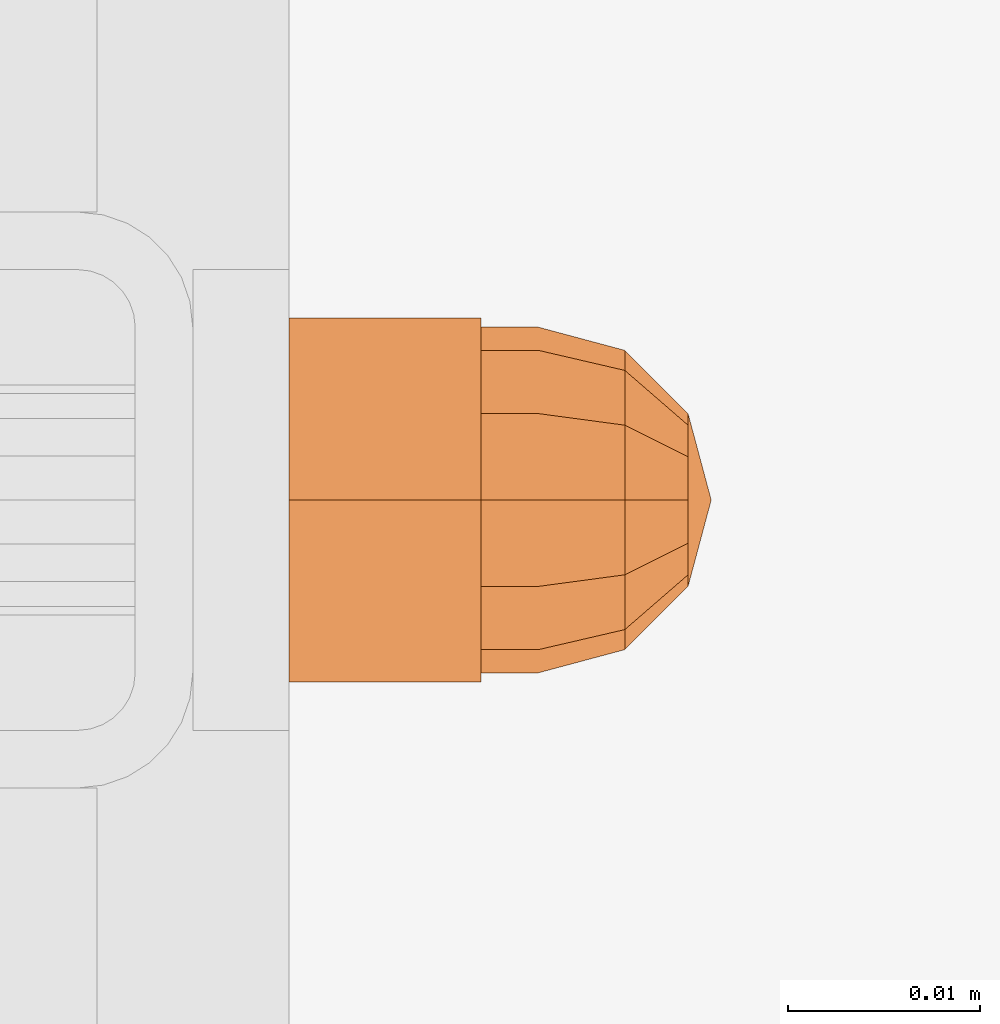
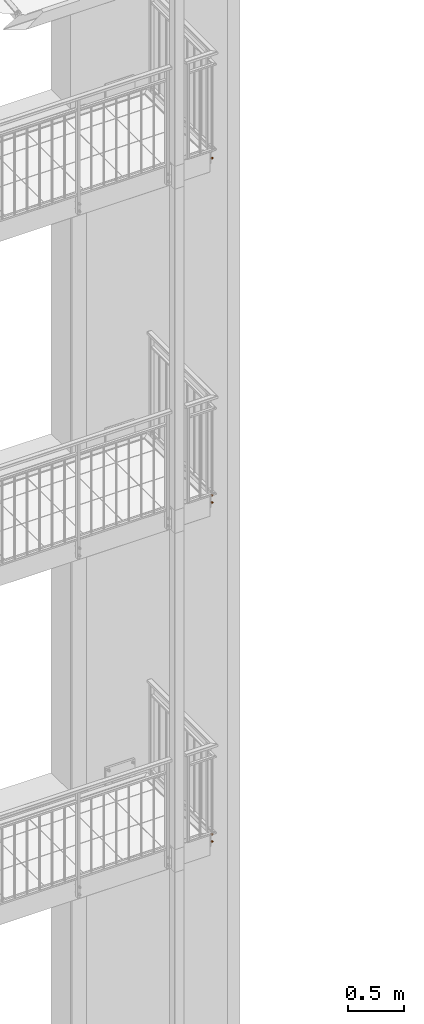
# One storey, part 159 of 162: 5 proxies.
"""IFC2X3 building model written with IfcOpenShell, lengths in millimetres."""

import ifcopenshell
import ifcopenshell.guid

model = None  # the IFC model being written
_history = None  # IfcOwnerHistory: only IFC2X3 demands one
_inside = {}  # id of a spatial element -> (the spatial element, [elements in it])
_under = {}  # id of a project, library or spatial element -> (it, [spatial elements below it])
_declared = {}  # id of a project -> (the project, [libraries it declares])
_typed = {}  # id of a type object -> (the type object, [elements of that type])
_made_of = {}  # id of a material, layer set ... -> (it, [elements and type objects made of it])


def new_model(schema):
    """Start an empty IFC model of exactly this schema.

    Asked for "IFC4X3", IfcOpenShell would pick the latest addendum, in which some entities
    have other attributes; the version numbers below select the first issue.
    IFC2X3 requires an IfcOwnerHistory on every rooted entity: one is made here for all.
    """
    global model, _history
    if schema == "IFC4X3":
        model = ifcopenshell.file(schema_version=(4, 3, 0, 0))
    else:
        model = ifcopenshell.file(schema=schema)
    _inside.clear()
    _under.clear()
    _declared.clear()
    _typed.clear()
    _made_of.clear()
    _history = None
    if model.schema == "IFC2X3":
        org = make("IfcOrganization", Name="unknown")
        user = make(
            "IfcPersonAndOrganization",
            ThePerson=make("IfcPerson", FamilyName="unknown"),
            TheOrganization=org,
        )
        app = make(
            "IfcApplication",
            ApplicationDeveloper=org,
            Version="unknown",
            ApplicationFullName="unknown",
            ApplicationIdentifier="unknown",
        )
        _history = make(
            "IfcOwnerHistory",
            OwningUser=user,
            OwningApplication=app,
            ChangeAction="ADDED",
            CreationDate=0,
        )
    return model


def make(cls, **values):
    """One entity of the class cls with the attributes given. An attribute that is None is left unset."""
    return model.create_entity(
        cls, **{name: value for name, value in values.items() if value is not None}
    )


def entity(cls, *values):
    """Any entity or typed value of the class cls, its attributes in the order of the schema. None: left unset."""
    e = model.create_entity(cls)
    for i, value in enumerate(values):
        if value is not None:
            e[i] = value
    return e


def rooted(cls, **values):
    """An entity with a GlobalId (a new one), such as an element, a storey or a relation."""
    return make(cls, GlobalId=ifcopenshell.guid.new(), OwnerHistory=_history, **values)


def si_unit(unit_type, name, prefix=None):
    """IfcSIUnit, for example si_unit("LENGTHUNIT", "METRE", prefix="MILLI")."""
    return make("IfcSIUnit", UnitType=unit_type, Prefix=prefix, Name=name)


def converted_unit(unit_type, name, factor, base, dimensions=None, offset=None):
    """IfcConversionBasedUnit, such as the inch: factor (a typed value) times the base unit."""
    return make(
        "IfcConversionBasedUnit"
        if offset is None
        else "IfcConversionBasedUnitWithOffset",
        ConversionOffset=offset,
        Dimensions=None
        if dimensions is None
        else entity("IfcDimensionalExponents", *dimensions),
        UnitType=unit_type,
        Name=name,
        ConversionFactor=make(
            "IfcMeasureWithUnit", ValueComponent=factor, UnitComponent=base
        ),
    )


def assignment(units):
    """IfcUnitAssignment: the units of a project."""
    return None if units is None else make("IfcUnitAssignment", Units=units)


def point(xyz):
    """IfcCartesianPoint."""
    return None if xyz is None else make("IfcCartesianPoint", Coordinates=xyz)


def direction(xyz):
    """IfcDirection."""
    return None if xyz is None else make("IfcDirection", DirectionRatios=xyz)


def frame(location, z_axis=None, x_axis=None):
    """IfcAxis2Placement3D, a coordinate frame: its origin and axes. An axis left out is left unset."""
    return make(
        "IfcAxis2Placement3D",
        Location=point(location),
        Axis=direction(z_axis),
        RefDirection=direction(x_axis),
    )


def origin_with_axes():
    """The frame at (0, 0, 0) with the z axis (0, 0, 1) and the x axis (1, 0, 0) written out."""
    return frame((0.0, 0.0, 0.0), z_axis=(0.0, 0.0, 1.0), x_axis=(1.0, 0.0, 0.0))


def place(relative_to, where):
    """IfcLocalPlacement: puts the frame where relative to a parent placement (None: the world)."""
    return make(
        "IfcLocalPlacement", PlacementRelTo=relative_to, RelativePlacement=where
    )


def context(
    kind, dimensions, precision=None, world=None, true_north=None, identifier=None
):
    """IfcGeometricRepresentationContext, for example the 3D "Model" context."""
    return make(
        "IfcGeometricRepresentationContext",
        ContextIdentifier=identifier,
        ContextType=kind,
        CoordinateSpaceDimension=dimensions,
        Precision=precision,
        WorldCoordinateSystem=world,
        TrueNorth=true_north,
    )


def project(units=None, contexts=None):
    """IfcProject with its units and contexts."""
    return rooted(
        "IfcProject",
        Name="project",
        RepresentationContexts=contexts,
        UnitsInContext=assignment(units),
    )


def spatial(cls, under=None, at=None, **own):
    """A site, building, storey or space (cls), placed at a placement, below another one or the project."""
    s = rooted(cls, ObjectPlacement=at, **own)
    if under is not None:
        _under.setdefault(under.id(), (under, []))[1].append(s)
    return s


def faces_of(points, faces, orient=None, outer=None):
    """IfcFace entities. A face is a list of loops; a loop is a list of indices into points, from 0.

    orient and outer hold one flag for each loop. By default every Orientation is true, the
    first loop of a face is its IfcFaceOuterBound and the others are IfcFaceBound.
    """
    made = []
    for i, loops in enumerate(faces):
        bounds = []
        for j, loop in enumerate(loops):
            is_outer = j == 0 if outer is None else outer[i][j]
            bounds.append(
                make(
                    "IfcFaceOuterBound" if is_outer else "IfcFaceBound",
                    Bound=make("IfcPolyLoop", Polygon=[points[k] for k in loop]),
                    Orientation=True if orient is None else orient[i][j],
                )
            )
        made.append(make("IfcFace", Bounds=bounds))
    return made


def faceted_brep(points, faces, orient=None, outer=None, voids=None):
    """IfcFacetedBrep: a solid bounded by flat faces; with voids (closed shells), ...WithVoids."""
    shared = [point(p) for p in points]
    hull = make("IfcClosedShell", CfsFaces=faces_of(shared, faces, orient, outer))
    if voids is None:
        return make("IfcFacetedBrep", Outer=hull)
    return make(
        "IfcFacetedBrepWithVoids",
        Outer=hull,
        Voids=[
            make(cls, CfsFaces=faces_of(shared, fs, o, b)) for cls, fs, o, b in voids
        ],
    )


def shape(context_of_items, identifier, shape_type, items):
    """IfcShapeRepresentation: the items that make up one representation, for example the "Body"."""
    return make(
        "IfcShapeRepresentation",
        ContextOfItems=context_of_items,
        RepresentationIdentifier=identifier,
        RepresentationType=shape_type,
        Items=items,
    )


def material(Name=None, Category=None):
    """IfcMaterial."""
    return make("IfcMaterial", Name=Name, Category=Category)


def made_of(thing, what):
    """Note that an element or type object is made of a material, layer set ...; save() writes the relation."""
    if what is not None:
        _made_of.setdefault(what.id(), (what, []))[1].append(thing)
    return thing


def element(
    cls,
    number,
    at=None,
    inside=None,
    cuts=None,
    type_object=None,
    material=None,
    context=None,
    identifier="Body",
    shape_type=None,
    held_by="IfcProductDefinitionShape",
    body=None,
    shapes=None,
    **own,
):
    """One element of the class cls, such as IfcWall. Its Tag is "e" and its number.

    at: its placement. inside: the storey or other place that contains it. cuts: it is an
    opening in that element (IfcRelVoidsElement). A single representation is given by context,
    identifier, shape_type and body (its items); several are given by shapes. held_by: the class
    of the entity that holds the representations. save() writes the other relations.
    """
    e = rooted(cls, Tag="e%d" % number, ObjectPlacement=at, **own)
    if body is not None:
        shapes = [shape(context, identifier, shape_type, body)]
    if shapes is not None:
        e.Representation = make(held_by, Representations=shapes)
    if inside is not None:
        _inside.setdefault(inside.id(), (inside, []))[1].append(e)
    if cuts is not None:
        rooted(
            "IfcRelVoidsElement", RelatingBuildingElement=cuts, RelatedOpeningElement=e
        )
    if type_object is not None:
        _typed.setdefault(type_object.id(), (type_object, []))[1].append(e)
    return made_of(e, material)


def aggregate(whole, parts):
    """IfcRelAggregates: a whole, such as a stair, and the parts it consists of."""
    return rooted("IfcRelAggregates", RelatingObject=whole, RelatedObjects=parts)


def save(model, path):
    """Write the relations noted so far, then the file.

    IfcRelAggregates (storeys below a building ...), IfcRelContainedInSpatialStructure (elements
    in a storey), IfcRelDefinesByType, IfcRelAssociatesMaterial and IfcRelDeclares: one each for
    every whole, place, type object, material and project.
    """
    for whole, parts in _under.values():
        aggregate(whole, parts)
    for where, things in _inside.values():
        rooted(
            "IfcRelContainedInSpatialStructure",
            RelatedElements=things,
            RelatingStructure=where,
        )
    for kind, things in _typed.values():
        rooted("IfcRelDefinesByType", RelatedObjects=things, RelatingType=kind)
    for what, things in _made_of.values():
        rooted("IfcRelAssociatesMaterial", RelatedObjects=things, RelatingMaterial=what)
    for by, libraries in _declared.values():
        rooted("IfcRelDeclares", RelatingContext=by, RelatedDefinitions=libraries)
    model.write(path)


model = new_model("IFC2X3")

# Units and contexts
model_context = context("Model", 3, precision=1e-09, world=origin_with_axes())
ifc_project = project(units=[si_unit("LENGTHUNIT", "METRE", prefix="MILLI"), si_unit("AREAUNIT", "SQUARE_METRE"), si_unit("VOLUMEUNIT", "CUBIC_METRE"), converted_unit("PLANEANGLEUNIT", "DEGREE", entity("IfcPlaneAngleMeasure", 0.01745329), si_unit("PLANEANGLEUNIT", "RADIAN"), dimensions=[0, 0, 0, 0, 0, 0, 0])], contexts=[model_context])

# Site, building, storey
site_placement = place(None, origin_with_axes())
site = spatial("IfcSite", under=ifc_project, at=site_placement, Name="Hermannstra?e 1a, 60318 Frankfurt", CompositionType="ELEMENT")
building_placement = place(site_placement, origin_with_axes())
building = spatial("IfcBuilding", under=site, at=building_placement, Name="Struktur 1", CompositionType="ELEMENT")
storey_placement = place(building_placement, origin_with_axes())
storey = spatial("IfcBuildingStorey", under=building, at=storey_placement, Name="Default Storey", CompositionType="ELEMENT", Elevation=0.0)

# Proxies
ifc_material = material(Name="Kein")
proxy_1_placement = place(None, origin_with_axes())
element("IfcBuildingElementProxy", 1, at=proxy_1_placement, inside=storey, material=ifc_material, ObjectType="-", context=model_context, shape_type="Brep", body=[
    faceted_brep([(5873.30936482, 1604.609373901, 7640.0), (5883.30936482, 1604.609373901, 7640.0), (5883.30936482, 1605.413221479, 7637.0), (5873.30936482, 1605.413221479, 7637.0), (5883.30936482, 1607.609373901, 7634.803847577), (5873.30936482, 1607.609373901, 7634.803847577), (5873.30936482, 1605.413221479, 7643.0), (5883.30936482, 1605.413221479, 7643.0), (5873.30936482, 1601.129504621, 7645.473205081), (5873.30936482, 1610.609373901, 7650.946410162), (5873.30936482, 1620.089243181, 7645.473205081), (5873.30936482, 1620.089243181, 7634.526794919), (5873.30936482, 1610.609373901, 7629.053589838), (5873.30936482, 1601.129504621, 7634.526794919), (5873.30936482, 1607.609373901, 7645.196152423), (5873.30936482, 1610.609373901, 7634.0), (5873.30936482, 1613.609373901, 7634.803847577), (5873.30936482, 1615.805526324, 7637.0), (5873.30936482, 1616.609373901, 7640.0), (5873.30936482, 1615.805526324, 7643.0), (5873.30936482, 1613.609373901, 7645.196152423), (5873.30936482, 1610.609373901, 7646.0), (5883.30936482, 1610.609373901, 7650.946410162), (5883.30936482, 1601.129504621, 7645.473205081), (5883.30936482, 1601.129504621, 7634.526794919), (5883.30936482, 1610.609373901, 7629.053589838), (5883.30936482, 1620.089243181, 7634.526794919), (5883.30936482, 1620.089243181, 7645.473205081), (5883.30936482, 1607.609373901, 7645.196152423), (5883.30936482, 1610.609373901, 7646.0), (5883.30936482, 1613.609373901, 7645.196152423), (5883.30936482, 1615.805526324, 7643.0), (5883.30936482, 1616.609373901, 7640.0), (5883.30936482, 1615.805526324, 7637.0), (5883.30936482, 1613.609373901, 7634.803847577), (5883.30936482, 1610.609373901, 7634.0)], [[[0, 1, 2, 3]], [[3, 2, 4, 5]], [[1, 0, 6, 7]], [[8, 9, 10, 11, 12, 13], [14, 6, 0, 3, 5, 15, 16, 17, 18, 19, 20, 21]], [[22, 23, 24, 25, 26, 27], [1, 7, 28, 29, 30, 31, 32, 33, 34, 35, 4, 2]], [[7, 6, 14, 28]], [[24, 23, 8, 13]], [[5, 4, 35, 15]], [[13, 12, 25, 24]], [[28, 14, 21, 29]], [[23, 22, 9, 8]], [[15, 35, 34, 16]], [[12, 11, 26, 25]], [[29, 21, 20, 30]], [[22, 27, 10, 9]], [[16, 34, 33, 17]], [[27, 26, 11, 10]], [[30, 20, 19, 31]], [[17, 33, 32, 18]], [[31, 19, 18, 32]]]),
    faceted_brep([(5883.30936482, 1610.609373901, 7649.0), (5886.30936482, 1610.609373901, 7649.0), (5886.30936482, 1615.109373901, 7647.794228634), (5883.30936482, 1615.109373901, 7647.794228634), (5883.30936482, 1606.109373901, 7647.794228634), (5886.30936482, 1606.109373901, 7647.794228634), (5886.30936482, 1602.815145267, 7635.5), (5886.30936482, 1606.109373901, 7632.205771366), (5886.30936482, 1610.609373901, 7631.0), (5886.30936482, 1615.109373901, 7632.205771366), (5886.30936482, 1618.403602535, 7635.5), (5886.30936482, 1619.609373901, 7640.0), (5886.30936482, 1618.403602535, 7644.5), (5886.30936482, 1602.815145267, 7644.5), (5886.30936482, 1601.609373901, 7640.0), (5883.30936482, 1618.403602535, 7635.5), (5883.30936482, 1615.109373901, 7632.205771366), (5883.30936482, 1610.609373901, 7631.0), (5883.30936482, 1606.109373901, 7632.205771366), (5883.30936482, 1602.815145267, 7635.5), (5883.30936482, 1601.609373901, 7640.0), (5883.30936482, 1602.815145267, 7644.5), (5883.30936482, 1618.403602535, 7644.5), (5883.30936482, 1619.609373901, 7640.0)], [[[0, 1, 2, 3]], [[1, 0, 4, 5]], [[6, 7, 8, 9, 10, 11, 12, 2, 1, 5, 13, 14]], [[15, 16, 17, 18, 19, 20, 21, 4, 0, 3, 22, 23]], [[3, 2, 12, 22]], [[5, 4, 21, 13]], [[22, 12, 11, 23]], [[13, 21, 20, 14]], [[7, 18, 17, 8]], [[19, 6, 14, 20]], [[18, 7, 6, 19]], [[23, 11, 10, 15]], [[8, 17, 16, 9]], [[15, 10, 9, 16]]]),
    faceted_brep([(5886.30936482, 1602.815145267, 7644.5), (5890.80936482, 1603.859373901, 7643.897114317), (5890.80936482, 1606.712259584, 7646.75), (5886.30936482, 1606.109373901, 7647.794228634), (5886.30936482, 1618.403602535, 7635.5), (5886.30936482, 1615.109373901, 7632.205771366), (5886.30936482, 1610.609373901, 7631.0), (5886.30936482, 1606.109373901, 7632.205771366), (5886.30936482, 1602.815145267, 7635.5), (5886.30936482, 1601.609373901, 7640.0), (5886.30936482, 1610.609373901, 7649.0), (5886.30936482, 1615.109373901, 7647.794228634), (5886.30936482, 1618.403602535, 7644.5), (5886.30936482, 1619.609373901, 7640.0), (5890.80936482, 1610.609373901, 7647.794228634), (5890.80936482, 1602.815145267, 7640.0), (5894.103593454, 1606.109373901, 7640.0), (5894.103593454, 1606.712259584, 7642.25), (5890.80936482, 1614.506488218, 7646.75), (5894.103593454, 1608.359373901, 7643.897114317), (5890.80936482, 1603.859373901, 7636.102885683), (5894.103593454, 1606.712259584, 7637.75), (5894.103593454, 1610.609373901, 7644.5), (5895.30936482, 1610.609373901, 7640.0), (5890.80936482, 1606.712259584, 7633.25), (5894.103593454, 1608.359373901, 7636.102885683), (5890.80936482, 1610.609373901, 7632.205771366), (5890.80936482, 1617.359373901, 7643.897114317), (5894.103593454, 1612.859373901, 7643.897114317), (5894.103593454, 1610.609373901, 7635.5), (5890.80936482, 1614.506488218, 7633.25), (5894.103593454, 1612.859373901, 7636.102885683), (5890.80936482, 1618.403602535, 7640.0), (5894.103593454, 1614.506488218, 7642.25), (5890.80936482, 1617.359373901, 7636.102885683), (5894.103593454, 1614.506488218, 7637.75), (5894.103593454, 1615.109373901, 7640.0)], [[[0, 1, 2, 3]], [[4, 5, 6, 7, 8, 9, 0, 3, 10, 11, 12, 13]], [[3, 2, 14, 10]], [[15, 16, 17, 1]], [[1, 0, 9, 15]], [[10, 14, 18, 11]], [[1, 17, 19, 2]], [[16, 15, 20, 21]], [[2, 19, 22, 14]], [[23, 17, 16]], [[24, 25, 21, 20]], [[23, 16, 21]], [[24, 7, 6, 26]], [[20, 8, 7, 24]], [[15, 9, 8, 20]], [[11, 18, 27, 12]], [[14, 22, 28, 18]], [[23, 19, 17]], [[26, 29, 25, 24]], [[23, 21, 25]], [[23, 22, 19]], [[26, 6, 5, 30]], [[29, 26, 30, 31]], [[23, 25, 29]], [[12, 27, 32, 13]], [[18, 28, 33, 27]], [[23, 28, 22]], [[23, 29, 31]], [[23, 33, 28]], [[30, 5, 4, 34]], [[31, 30, 34, 35]], [[23, 31, 35]], [[13, 32, 34, 4]], [[27, 33, 36, 32]], [[23, 36, 33]], [[23, 35, 36]], [[35, 34, 32, 36]]]),
])
proxy_2_placement = place(None, origin_with_axes())
element("IfcBuildingElementProxy", 2, at=proxy_2_placement, inside=storey, material=ifc_material, ObjectType="-", context=model_context, shape_type="Brep", body=[
    faceted_brep([(5873.30936482, 1604.609373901, 7720.0), (5883.30936482, 1604.609373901, 7720.0), (5883.30936482, 1605.413221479, 7717.0), (5873.30936482, 1605.413221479, 7717.0), (5883.30936482, 1607.609373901, 7714.803847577), (5873.30936482, 1607.609373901, 7714.803847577), (5873.30936482, 1605.413221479, 7723.0), (5883.30936482, 1605.413221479, 7723.0), (5873.30936482, 1601.129504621, 7725.473205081), (5873.30936482, 1610.609373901, 7730.946410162), (5873.30936482, 1620.089243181, 7725.473205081), (5873.30936482, 1620.089243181, 7714.526794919), (5873.30936482, 1610.609373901, 7709.053589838), (5873.30936482, 1601.129504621, 7714.526794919), (5873.30936482, 1607.609373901, 7725.196152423), (5873.30936482, 1610.609373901, 7714.0), (5873.30936482, 1613.609373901, 7714.803847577), (5873.30936482, 1615.805526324, 7717.0), (5873.30936482, 1616.609373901, 7720.0), (5873.30936482, 1615.805526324, 7723.0), (5873.30936482, 1613.609373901, 7725.196152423), (5873.30936482, 1610.609373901, 7726.0), (5883.30936482, 1610.609373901, 7730.946410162), (5883.30936482, 1601.129504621, 7725.473205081), (5883.30936482, 1601.129504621, 7714.526794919), (5883.30936482, 1610.609373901, 7709.053589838), (5883.30936482, 1620.089243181, 7714.526794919), (5883.30936482, 1620.089243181, 7725.473205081), (5883.30936482, 1607.609373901, 7725.196152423), (5883.30936482, 1610.609373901, 7726.0), (5883.30936482, 1613.609373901, 7725.196152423), (5883.30936482, 1615.805526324, 7723.0), (5883.30936482, 1616.609373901, 7720.0), (5883.30936482, 1615.805526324, 7717.0), (5883.30936482, 1613.609373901, 7714.803847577), (5883.30936482, 1610.609373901, 7714.0)], [[[0, 1, 2, 3]], [[3, 2, 4, 5]], [[1, 0, 6, 7]], [[8, 9, 10, 11, 12, 13], [14, 6, 0, 3, 5, 15, 16, 17, 18, 19, 20, 21]], [[22, 23, 24, 25, 26, 27], [1, 7, 28, 29, 30, 31, 32, 33, 34, 35, 4, 2]], [[7, 6, 14, 28]], [[24, 23, 8, 13]], [[5, 4, 35, 15]], [[13, 12, 25, 24]], [[28, 14, 21, 29]], [[23, 22, 9, 8]], [[15, 35, 34, 16]], [[12, 11, 26, 25]], [[29, 21, 20, 30]], [[22, 27, 10, 9]], [[16, 34, 33, 17]], [[27, 26, 11, 10]], [[30, 20, 19, 31]], [[17, 33, 32, 18]], [[31, 19, 18, 32]]]),
    faceted_brep([(5883.30936482, 1610.609373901, 7729.0), (5886.30936482, 1610.609373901, 7729.0), (5886.30936482, 1615.109373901, 7727.794228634), (5883.30936482, 1615.109373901, 7727.794228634), (5883.30936482, 1606.109373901, 7727.794228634), (5886.30936482, 1606.109373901, 7727.794228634), (5886.30936482, 1602.815145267, 7715.5), (5886.30936482, 1606.109373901, 7712.205771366), (5886.30936482, 1610.609373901, 7711.0), (5886.30936482, 1615.109373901, 7712.205771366), (5886.30936482, 1618.403602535, 7715.5), (5886.30936482, 1619.609373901, 7720.0), (5886.30936482, 1618.403602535, 7724.5), (5886.30936482, 1602.815145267, 7724.5), (5886.30936482, 1601.609373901, 7720.0), (5883.30936482, 1618.403602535, 7715.5), (5883.30936482, 1615.109373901, 7712.205771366), (5883.30936482, 1610.609373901, 7711.0), (5883.30936482, 1606.109373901, 7712.205771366), (5883.30936482, 1602.815145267, 7715.5), (5883.30936482, 1601.609373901, 7720.0), (5883.30936482, 1602.815145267, 7724.5), (5883.30936482, 1618.403602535, 7724.5), (5883.30936482, 1619.609373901, 7720.0)], [[[0, 1, 2, 3]], [[1, 0, 4, 5]], [[6, 7, 8, 9, 10, 11, 12, 2, 1, 5, 13, 14]], [[15, 16, 17, 18, 19, 20, 21, 4, 0, 3, 22, 23]], [[3, 2, 12, 22]], [[5, 4, 21, 13]], [[22, 12, 11, 23]], [[13, 21, 20, 14]], [[7, 18, 17, 8]], [[19, 6, 14, 20]], [[18, 7, 6, 19]], [[23, 11, 10, 15]], [[8, 17, 16, 9]], [[15, 10, 9, 16]]]),
    faceted_brep([(5886.30936482, 1602.815145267, 7724.5), (5890.80936482, 1603.859373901, 7723.897114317), (5890.80936482, 1606.712259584, 7726.75), (5886.30936482, 1606.109373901, 7727.794228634), (5886.30936482, 1618.403602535, 7715.5), (5886.30936482, 1615.109373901, 7712.205771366), (5886.30936482, 1610.609373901, 7711.0), (5886.30936482, 1606.109373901, 7712.205771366), (5886.30936482, 1602.815145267, 7715.5), (5886.30936482, 1601.609373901, 7720.0), (5886.30936482, 1610.609373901, 7729.0), (5886.30936482, 1615.109373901, 7727.794228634), (5886.30936482, 1618.403602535, 7724.5), (5886.30936482, 1619.609373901, 7720.0), (5890.80936482, 1610.609373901, 7727.794228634), (5890.80936482, 1602.815145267, 7720.0), (5894.103593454, 1606.109373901, 7720.0), (5894.103593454, 1606.712259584, 7722.25), (5890.80936482, 1614.506488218, 7726.75), (5894.103593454, 1608.359373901, 7723.897114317), (5890.80936482, 1603.859373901, 7716.102885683), (5894.103593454, 1606.712259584, 7717.75), (5894.103593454, 1610.609373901, 7724.5), (5895.30936482, 1610.609373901, 7720.0), (5890.80936482, 1606.712259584, 7713.25), (5894.103593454, 1608.359373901, 7716.102885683), (5890.80936482, 1610.609373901, 7712.205771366), (5890.80936482, 1617.359373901, 7723.897114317), (5894.103593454, 1612.859373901, 7723.897114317), (5894.103593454, 1610.609373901, 7715.5), (5890.80936482, 1614.506488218, 7713.25), (5894.103593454, 1612.859373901, 7716.102885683), (5890.80936482, 1618.403602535, 7720.0), (5894.103593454, 1614.506488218, 7722.25), (5890.80936482, 1617.359373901, 7716.102885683), (5894.103593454, 1614.506488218, 7717.75), (5894.103593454, 1615.109373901, 7720.0)], [[[0, 1, 2, 3]], [[4, 5, 6, 7, 8, 9, 0, 3, 10, 11, 12, 13]], [[3, 2, 14, 10]], [[15, 16, 17, 1]], [[1, 0, 9, 15]], [[10, 14, 18, 11]], [[1, 17, 19, 2]], [[16, 15, 20, 21]], [[2, 19, 22, 14]], [[23, 17, 16]], [[24, 25, 21, 20]], [[23, 16, 21]], [[24, 7, 6, 26]], [[20, 8, 7, 24]], [[15, 9, 8, 20]], [[11, 18, 27, 12]], [[14, 22, 28, 18]], [[23, 19, 17]], [[26, 29, 25, 24]], [[23, 21, 25]], [[23, 22, 19]], [[26, 6, 5, 30]], [[29, 26, 30, 31]], [[23, 25, 29]], [[12, 27, 32, 13]], [[18, 28, 33, 27]], [[23, 28, 22]], [[23, 29, 31]], [[23, 33, 28]], [[30, 5, 4, 34]], [[31, 30, 34, 35]], [[23, 31, 35]], [[13, 32, 34, 4]], [[27, 33, 36, 32]], [[23, 36, 33]], [[23, 35, 36]], [[35, 34, 32, 36]]]),
])
proxy_3_placement = place(None, origin_with_axes())
element("IfcBuildingElementProxy", 3, at=proxy_3_placement, inside=storey, material=ifc_material, ObjectType="-", context=model_context, shape_type="Brep", body=[
    faceted_brep([(5873.30936482, 1604.609373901, 11339.999), (5883.30936482, 1604.609373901, 11339.999), (5883.30936482, 1605.413221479, 11336.999), (5873.30936482, 1605.413221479, 11336.999), (5883.30936482, 1607.609373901, 11334.802847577), (5873.30936482, 1607.609373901, 11334.802847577), (5873.30936482, 1605.413221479, 11342.999), (5883.30936482, 1605.413221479, 11342.999), (5873.30936482, 1601.129504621, 11345.472205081), (5873.30936482, 1610.609373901, 11350.945410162), (5873.30936482, 1620.089243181, 11345.472205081), (5873.30936482, 1620.089243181, 11334.525794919), (5873.30936482, 1610.609373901, 11329.052589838), (5873.30936482, 1601.129504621, 11334.525794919), (5873.30936482, 1607.609373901, 11345.195152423), (5873.30936482, 1610.609373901, 11333.999), (5873.30936482, 1613.609373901, 11334.802847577), (5873.30936482, 1615.805526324, 11336.999), (5873.30936482, 1616.609373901, 11339.999), (5873.30936482, 1615.805526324, 11342.999), (5873.30936482, 1613.609373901, 11345.195152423), (5873.30936482, 1610.609373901, 11345.999), (5883.30936482, 1610.609373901, 11350.945410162), (5883.30936482, 1601.129504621, 11345.472205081), (5883.30936482, 1601.129504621, 11334.525794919), (5883.30936482, 1610.609373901, 11329.052589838), (5883.30936482, 1620.089243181, 11334.525794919), (5883.30936482, 1620.089243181, 11345.472205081), (5883.30936482, 1607.609373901, 11345.195152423), (5883.30936482, 1610.609373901, 11345.999), (5883.30936482, 1613.609373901, 11345.195152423), (5883.30936482, 1615.805526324, 11342.999), (5883.30936482, 1616.609373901, 11339.999), (5883.30936482, 1615.805526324, 11336.999), (5883.30936482, 1613.609373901, 11334.802847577), (5883.30936482, 1610.609373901, 11333.999)], [[[0, 1, 2, 3]], [[3, 2, 4, 5]], [[1, 0, 6, 7]], [[8, 9, 10, 11, 12, 13], [14, 6, 0, 3, 5, 15, 16, 17, 18, 19, 20, 21]], [[22, 23, 24, 25, 26, 27], [1, 7, 28, 29, 30, 31, 32, 33, 34, 35, 4, 2]], [[7, 6, 14, 28]], [[24, 23, 8, 13]], [[5, 4, 35, 15]], [[13, 12, 25, 24]], [[28, 14, 21, 29]], [[23, 22, 9, 8]], [[15, 35, 34, 16]], [[12, 11, 26, 25]], [[29, 21, 20, 30]], [[22, 27, 10, 9]], [[16, 34, 33, 17]], [[27, 26, 11, 10]], [[30, 20, 19, 31]], [[17, 33, 32, 18]], [[31, 19, 18, 32]]]),
    faceted_brep([(5883.30936482, 1610.609373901, 11348.999), (5886.30936482, 1610.609373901, 11348.999), (5886.30936482, 1615.109373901, 11347.793228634), (5883.30936482, 1615.109373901, 11347.793228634), (5883.30936482, 1606.109373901, 11347.793228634), (5886.30936482, 1606.109373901, 11347.793228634), (5886.30936482, 1602.815145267, 11335.499), (5886.30936482, 1606.109373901, 11332.204771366), (5886.30936482, 1610.609373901, 11330.999), (5886.30936482, 1615.109373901, 11332.204771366), (5886.30936482, 1618.403602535, 11335.499), (5886.30936482, 1619.609373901, 11339.999), (5886.30936482, 1618.403602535, 11344.499), (5886.30936482, 1602.815145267, 11344.499), (5886.30936482, 1601.609373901, 11339.999), (5883.30936482, 1618.403602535, 11335.499), (5883.30936482, 1615.109373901, 11332.204771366), (5883.30936482, 1610.609373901, 11330.999), (5883.30936482, 1606.109373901, 11332.204771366), (5883.30936482, 1602.815145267, 11335.499), (5883.30936482, 1601.609373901, 11339.999), (5883.30936482, 1602.815145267, 11344.499), (5883.30936482, 1618.403602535, 11344.499), (5883.30936482, 1619.609373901, 11339.999)], [[[0, 1, 2, 3]], [[1, 0, 4, 5]], [[6, 7, 8, 9, 10, 11, 12, 2, 1, 5, 13, 14]], [[15, 16, 17, 18, 19, 20, 21, 4, 0, 3, 22, 23]], [[3, 2, 12, 22]], [[5, 4, 21, 13]], [[22, 12, 11, 23]], [[13, 21, 20, 14]], [[7, 18, 17, 8]], [[19, 6, 14, 20]], [[18, 7, 6, 19]], [[23, 11, 10, 15]], [[8, 17, 16, 9]], [[15, 10, 9, 16]]]),
    faceted_brep([(5886.30936482, 1602.815145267, 11344.499), (5890.80936482, 1603.859373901, 11343.896114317), (5890.80936482, 1606.712259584, 11346.749), (5886.30936482, 1606.109373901, 11347.793228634), (5886.30936482, 1618.403602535, 11335.499), (5886.30936482, 1615.109373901, 11332.204771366), (5886.30936482, 1610.609373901, 11330.999), (5886.30936482, 1606.109373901, 11332.204771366), (5886.30936482, 1602.815145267, 11335.499), (5886.30936482, 1601.609373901, 11339.999), (5886.30936482, 1610.609373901, 11348.999), (5886.30936482, 1615.109373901, 11347.793228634), (5886.30936482, 1618.403602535, 11344.499), (5886.30936482, 1619.609373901, 11339.999), (5890.80936482, 1610.609373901, 11347.793228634), (5890.80936482, 1602.815145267, 11339.999), (5894.103593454, 1606.109373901, 11339.999), (5894.103593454, 1606.712259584, 11342.249), (5890.80936482, 1614.506488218, 11346.749), (5894.103593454, 1608.359373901, 11343.896114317), (5890.80936482, 1603.859373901, 11336.101885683), (5894.103593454, 1606.712259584, 11337.749), (5894.103593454, 1610.609373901, 11344.499), (5895.30936482, 1610.609373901, 11339.999), (5890.80936482, 1606.712259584, 11333.249), (5894.103593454, 1608.359373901, 11336.101885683), (5890.80936482, 1610.609373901, 11332.204771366), (5890.80936482, 1617.359373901, 11343.896114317), (5894.103593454, 1612.859373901, 11343.896114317), (5894.103593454, 1610.609373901, 11335.499), (5890.80936482, 1614.506488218, 11333.249), (5894.103593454, 1612.859373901, 11336.101885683), (5890.80936482, 1618.403602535, 11339.999), (5894.103593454, 1614.506488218, 11342.249), (5890.80936482, 1617.359373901, 11336.101885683), (5894.103593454, 1614.506488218, 11337.749), (5894.103593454, 1615.109373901, 11339.999)], [[[0, 1, 2, 3]], [[4, 5, 6, 7, 8, 9, 0, 3, 10, 11, 12, 13]], [[3, 2, 14, 10]], [[15, 16, 17, 1]], [[1, 0, 9, 15]], [[10, 14, 18, 11]], [[1, 17, 19, 2]], [[16, 15, 20, 21]], [[2, 19, 22, 14]], [[23, 17, 16]], [[24, 25, 21, 20]], [[23, 16, 21]], [[24, 7, 6, 26]], [[20, 8, 7, 24]], [[15, 9, 8, 20]], [[11, 18, 27, 12]], [[14, 22, 28, 18]], [[23, 19, 17]], [[26, 29, 25, 24]], [[23, 21, 25]], [[23, 22, 19]], [[26, 6, 5, 30]], [[29, 26, 30, 31]], [[23, 25, 29]], [[12, 27, 32, 13]], [[18, 28, 33, 27]], [[23, 28, 22]], [[23, 29, 31]], [[23, 33, 28]], [[30, 5, 4, 34]], [[31, 30, 34, 35]], [[23, 31, 35]], [[13, 32, 34, 4]], [[27, 33, 36, 32]], [[23, 36, 33]], [[23, 35, 36]], [[35, 34, 32, 36]]]),
])
proxy_4_placement = place(None, origin_with_axes())
element("IfcBuildingElementProxy", 4, at=proxy_4_placement, inside=storey, material=ifc_material, ObjectType="-", context=model_context, shape_type="Brep", body=[
    faceted_brep([(5873.30936482, 1604.609373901, 11419.999), (5883.30936482, 1604.609373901, 11419.999), (5883.30936482, 1605.413221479, 11416.999), (5873.30936482, 1605.413221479, 11416.999), (5883.30936482, 1607.609373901, 11414.802847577), (5873.30936482, 1607.609373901, 11414.802847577), (5873.30936482, 1605.413221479, 11422.999), (5883.30936482, 1605.413221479, 11422.999), (5873.30936482, 1601.129504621, 11425.472205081), (5873.30936482, 1610.609373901, 11430.945410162), (5873.30936482, 1620.089243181, 11425.472205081), (5873.30936482, 1620.089243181, 11414.525794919), (5873.30936482, 1610.609373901, 11409.052589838), (5873.30936482, 1601.129504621, 11414.525794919), (5873.30936482, 1607.609373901, 11425.195152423), (5873.30936482, 1610.609373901, 11413.999), (5873.30936482, 1613.609373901, 11414.802847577), (5873.30936482, 1615.805526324, 11416.999), (5873.30936482, 1616.609373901, 11419.999), (5873.30936482, 1615.805526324, 11422.999), (5873.30936482, 1613.609373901, 11425.195152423), (5873.30936482, 1610.609373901, 11425.999), (5883.30936482, 1610.609373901, 11430.945410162), (5883.30936482, 1601.129504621, 11425.472205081), (5883.30936482, 1601.129504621, 11414.525794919), (5883.30936482, 1610.609373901, 11409.052589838), (5883.30936482, 1620.089243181, 11414.525794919), (5883.30936482, 1620.089243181, 11425.472205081), (5883.30936482, 1607.609373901, 11425.195152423), (5883.30936482, 1610.609373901, 11425.999), (5883.30936482, 1613.609373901, 11425.195152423), (5883.30936482, 1615.805526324, 11422.999), (5883.30936482, 1616.609373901, 11419.999), (5883.30936482, 1615.805526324, 11416.999), (5883.30936482, 1613.609373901, 11414.802847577), (5883.30936482, 1610.609373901, 11413.999)], [[[0, 1, 2, 3]], [[3, 2, 4, 5]], [[1, 0, 6, 7]], [[8, 9, 10, 11, 12, 13], [14, 6, 0, 3, 5, 15, 16, 17, 18, 19, 20, 21]], [[22, 23, 24, 25, 26, 27], [1, 7, 28, 29, 30, 31, 32, 33, 34, 35, 4, 2]], [[7, 6, 14, 28]], [[24, 23, 8, 13]], [[5, 4, 35, 15]], [[13, 12, 25, 24]], [[28, 14, 21, 29]], [[23, 22, 9, 8]], [[15, 35, 34, 16]], [[12, 11, 26, 25]], [[29, 21, 20, 30]], [[22, 27, 10, 9]], [[16, 34, 33, 17]], [[27, 26, 11, 10]], [[30, 20, 19, 31]], [[17, 33, 32, 18]], [[31, 19, 18, 32]]]),
    faceted_brep([(5883.30936482, 1610.609373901, 11428.999), (5886.30936482, 1610.609373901, 11428.999), (5886.30936482, 1615.109373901, 11427.793228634), (5883.30936482, 1615.109373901, 11427.793228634), (5883.30936482, 1606.109373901, 11427.793228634), (5886.30936482, 1606.109373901, 11427.793228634), (5886.30936482, 1602.815145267, 11415.499), (5886.30936482, 1606.109373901, 11412.204771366), (5886.30936482, 1610.609373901, 11410.999), (5886.30936482, 1615.109373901, 11412.204771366), (5886.30936482, 1618.403602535, 11415.499), (5886.30936482, 1619.609373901, 11419.999), (5886.30936482, 1618.403602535, 11424.499), (5886.30936482, 1602.815145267, 11424.499), (5886.30936482, 1601.609373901, 11419.999), (5883.30936482, 1618.403602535, 11415.499), (5883.30936482, 1615.109373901, 11412.204771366), (5883.30936482, 1610.609373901, 11410.999), (5883.30936482, 1606.109373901, 11412.204771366), (5883.30936482, 1602.815145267, 11415.499), (5883.30936482, 1601.609373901, 11419.999), (5883.30936482, 1602.815145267, 11424.499), (5883.30936482, 1618.403602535, 11424.499), (5883.30936482, 1619.609373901, 11419.999)], [[[0, 1, 2, 3]], [[1, 0, 4, 5]], [[6, 7, 8, 9, 10, 11, 12, 2, 1, 5, 13, 14]], [[15, 16, 17, 18, 19, 20, 21, 4, 0, 3, 22, 23]], [[3, 2, 12, 22]], [[5, 4, 21, 13]], [[22, 12, 11, 23]], [[13, 21, 20, 14]], [[7, 18, 17, 8]], [[19, 6, 14, 20]], [[18, 7, 6, 19]], [[23, 11, 10, 15]], [[8, 17, 16, 9]], [[15, 10, 9, 16]]]),
    faceted_brep([(5886.30936482, 1602.815145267, 11424.499), (5890.80936482, 1603.859373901, 11423.896114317), (5890.80936482, 1606.712259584, 11426.749), (5886.30936482, 1606.109373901, 11427.793228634), (5886.30936482, 1618.403602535, 11415.499), (5886.30936482, 1615.109373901, 11412.204771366), (5886.30936482, 1610.609373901, 11410.999), (5886.30936482, 1606.109373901, 11412.204771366), (5886.30936482, 1602.815145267, 11415.499), (5886.30936482, 1601.609373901, 11419.999), (5886.30936482, 1610.609373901, 11428.999), (5886.30936482, 1615.109373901, 11427.793228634), (5886.30936482, 1618.403602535, 11424.499), (5886.30936482, 1619.609373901, 11419.999), (5890.80936482, 1610.609373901, 11427.793228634), (5890.80936482, 1602.815145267, 11419.999), (5894.103593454, 1606.109373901, 11419.999), (5894.103593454, 1606.712259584, 11422.249), (5890.80936482, 1614.506488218, 11426.749), (5894.103593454, 1608.359373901, 11423.896114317), (5890.80936482, 1603.859373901, 11416.101885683), (5894.103593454, 1606.712259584, 11417.749), (5894.103593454, 1610.609373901, 11424.499), (5895.30936482, 1610.609373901, 11419.999), (5890.80936482, 1606.712259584, 11413.249), (5894.103593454, 1608.359373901, 11416.101885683), (5890.80936482, 1610.609373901, 11412.204771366), (5890.80936482, 1617.359373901, 11423.896114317), (5894.103593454, 1612.859373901, 11423.896114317), (5894.103593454, 1610.609373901, 11415.499), (5890.80936482, 1614.506488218, 11413.249), (5894.103593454, 1612.859373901, 11416.101885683), (5890.80936482, 1618.403602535, 11419.999), (5894.103593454, 1614.506488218, 11422.249), (5890.80936482, 1617.359373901, 11416.101885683), (5894.103593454, 1614.506488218, 11417.749), (5894.103593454, 1615.109373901, 11419.999)], [[[0, 1, 2, 3]], [[4, 5, 6, 7, 8, 9, 0, 3, 10, 11, 12, 13]], [[3, 2, 14, 10]], [[15, 16, 17, 1]], [[1, 0, 9, 15]], [[10, 14, 18, 11]], [[1, 17, 19, 2]], [[16, 15, 20, 21]], [[2, 19, 22, 14]], [[23, 17, 16]], [[24, 25, 21, 20]], [[23, 16, 21]], [[24, 7, 6, 26]], [[20, 8, 7, 24]], [[15, 9, 8, 20]], [[11, 18, 27, 12]], [[14, 22, 28, 18]], [[23, 19, 17]], [[26, 29, 25, 24]], [[23, 21, 25]], [[23, 22, 19]], [[26, 6, 5, 30]], [[29, 26, 30, 31]], [[23, 25, 29]], [[12, 27, 32, 13]], [[18, 28, 33, 27]], [[23, 28, 22]], [[23, 29, 31]], [[23, 33, 28]], [[30, 5, 4, 34]], [[31, 30, 34, 35]], [[23, 31, 35]], [[13, 32, 34, 4]], [[27, 33, 36, 32]], [[23, 36, 33]], [[23, 35, 36]], [[35, 34, 32, 36]]]),
])
proxy_5_placement = place(None, origin_with_axes())
element("IfcBuildingElementProxy", 5, at=proxy_5_placement, inside=storey, material=ifc_material, ObjectType="-", context=model_context, shape_type="Brep", body=[
    faceted_brep([(5873.30936482, 1604.609373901, 15096.999), (5883.30936482, 1604.609373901, 15096.999), (5883.30936482, 1605.413221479, 15093.999), (5873.30936482, 1605.413221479, 15093.999), (5883.30936482, 1607.609373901, 15091.802847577), (5873.30936482, 1607.609373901, 15091.802847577), (5873.30936482, 1605.413221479, 15099.999), (5883.30936482, 1605.413221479, 15099.999), (5873.30936482, 1601.129504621, 15102.472205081), (5873.30936482, 1610.609373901, 15107.945410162), (5873.30936482, 1620.089243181, 15102.472205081), (5873.30936482, 1620.089243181, 15091.525794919), (5873.30936482, 1610.609373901, 15086.052589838), (5873.30936482, 1601.129504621, 15091.525794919), (5873.30936482, 1607.609373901, 15102.195152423), (5873.30936482, 1610.609373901, 15090.999), (5873.30936482, 1613.609373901, 15091.802847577), (5873.30936482, 1615.805526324, 15093.999), (5873.30936482, 1616.609373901, 15096.999), (5873.30936482, 1615.805526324, 15099.999), (5873.30936482, 1613.609373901, 15102.195152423), (5873.30936482, 1610.609373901, 15102.999), (5883.30936482, 1610.609373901, 15107.945410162), (5883.30936482, 1601.129504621, 15102.472205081), (5883.30936482, 1601.129504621, 15091.525794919), (5883.30936482, 1610.609373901, 15086.052589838), (5883.30936482, 1620.089243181, 15091.525794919), (5883.30936482, 1620.089243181, 15102.472205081), (5883.30936482, 1607.609373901, 15102.195152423), (5883.30936482, 1610.609373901, 15102.999), (5883.30936482, 1613.609373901, 15102.195152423), (5883.30936482, 1615.805526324, 15099.999), (5883.30936482, 1616.609373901, 15096.999), (5883.30936482, 1615.805526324, 15093.999), (5883.30936482, 1613.609373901, 15091.802847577), (5883.30936482, 1610.609373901, 15090.999)], [[[0, 1, 2, 3]], [[3, 2, 4, 5]], [[1, 0, 6, 7]], [[8, 9, 10, 11, 12, 13], [14, 6, 0, 3, 5, 15, 16, 17, 18, 19, 20, 21]], [[22, 23, 24, 25, 26, 27], [1, 7, 28, 29, 30, 31, 32, 33, 34, 35, 4, 2]], [[7, 6, 14, 28]], [[24, 23, 8, 13]], [[5, 4, 35, 15]], [[13, 12, 25, 24]], [[28, 14, 21, 29]], [[23, 22, 9, 8]], [[15, 35, 34, 16]], [[12, 11, 26, 25]], [[29, 21, 20, 30]], [[22, 27, 10, 9]], [[16, 34, 33, 17]], [[27, 26, 11, 10]], [[30, 20, 19, 31]], [[17, 33, 32, 18]], [[31, 19, 18, 32]]]),
    faceted_brep([(5883.30936482, 1610.609373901, 15105.999), (5886.30936482, 1610.609373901, 15105.999), (5886.30936482, 1615.109373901, 15104.793228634), (5883.30936482, 1615.109373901, 15104.793228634), (5883.30936482, 1606.109373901, 15104.793228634), (5886.30936482, 1606.109373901, 15104.793228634), (5886.30936482, 1602.815145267, 15092.499), (5886.30936482, 1606.109373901, 15089.204771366), (5886.30936482, 1610.609373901, 15087.999), (5886.30936482, 1615.109373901, 15089.204771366), (5886.30936482, 1618.403602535, 15092.499), (5886.30936482, 1619.609373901, 15096.999), (5886.30936482, 1618.403602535, 15101.499), (5886.30936482, 1602.815145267, 15101.499), (5886.30936482, 1601.609373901, 15096.999), (5883.30936482, 1618.403602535, 15092.499), (5883.30936482, 1615.109373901, 15089.204771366), (5883.30936482, 1610.609373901, 15087.999), (5883.30936482, 1606.109373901, 15089.204771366), (5883.30936482, 1602.815145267, 15092.499), (5883.30936482, 1601.609373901, 15096.999), (5883.30936482, 1602.815145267, 15101.499), (5883.30936482, 1618.403602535, 15101.499), (5883.30936482, 1619.609373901, 15096.999)], [[[0, 1, 2, 3]], [[1, 0, 4, 5]], [[6, 7, 8, 9, 10, 11, 12, 2, 1, 5, 13, 14]], [[15, 16, 17, 18, 19, 20, 21, 4, 0, 3, 22, 23]], [[3, 2, 12, 22]], [[5, 4, 21, 13]], [[22, 12, 11, 23]], [[13, 21, 20, 14]], [[7, 18, 17, 8]], [[19, 6, 14, 20]], [[18, 7, 6, 19]], [[23, 11, 10, 15]], [[8, 17, 16, 9]], [[15, 10, 9, 16]]]),
    faceted_brep([(5886.30936482, 1602.815145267, 15101.499), (5890.80936482, 1603.859373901, 15100.896114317), (5890.80936482, 1606.712259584, 15103.749), (5886.30936482, 1606.109373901, 15104.793228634), (5886.30936482, 1618.403602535, 15092.499), (5886.30936482, 1615.109373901, 15089.204771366), (5886.30936482, 1610.609373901, 15087.999), (5886.30936482, 1606.109373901, 15089.204771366), (5886.30936482, 1602.815145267, 15092.499), (5886.30936482, 1601.609373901, 15096.999), (5886.30936482, 1610.609373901, 15105.999), (5886.30936482, 1615.109373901, 15104.793228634), (5886.30936482, 1618.403602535, 15101.499), (5886.30936482, 1619.609373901, 15096.999), (5890.80936482, 1610.609373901, 15104.793228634), (5890.80936482, 1602.815145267, 15096.999), (5894.103593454, 1606.109373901, 15096.999), (5894.103593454, 1606.712259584, 15099.249), (5890.80936482, 1614.506488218, 15103.749), (5894.103593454, 1608.359373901, 15100.896114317), (5890.80936482, 1603.859373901, 15093.101885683), (5894.103593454, 1606.712259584, 15094.749), (5894.103593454, 1610.609373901, 15101.499), (5895.30936482, 1610.609373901, 15096.999), (5890.80936482, 1606.712259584, 15090.249), (5894.103593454, 1608.359373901, 15093.101885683), (5890.80936482, 1610.609373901, 15089.204771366), (5890.80936482, 1617.359373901, 15100.896114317), (5894.103593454, 1612.859373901, 15100.896114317), (5894.103593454, 1610.609373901, 15092.499), (5890.80936482, 1614.506488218, 15090.249), (5894.103593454, 1612.859373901, 15093.101885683), (5890.80936482, 1618.403602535, 15096.999), (5894.103593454, 1614.506488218, 15099.249), (5890.80936482, 1617.359373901, 15093.101885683), (5894.103593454, 1614.506488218, 15094.749), (5894.103593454, 1615.109373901, 15096.999)], [[[0, 1, 2, 3]], [[4, 5, 6, 7, 8, 9, 0, 3, 10, 11, 12, 13]], [[3, 2, 14, 10]], [[15, 16, 17, 1]], [[1, 0, 9, 15]], [[10, 14, 18, 11]], [[1, 17, 19, 2]], [[16, 15, 20, 21]], [[2, 19, 22, 14]], [[23, 17, 16]], [[24, 25, 21, 20]], [[23, 16, 21]], [[24, 7, 6, 26]], [[20, 8, 7, 24]], [[15, 9, 8, 20]], [[11, 18, 27, 12]], [[14, 22, 28, 18]], [[23, 19, 17]], [[26, 29, 25, 24]], [[23, 21, 25]], [[23, 22, 19]], [[26, 6, 5, 30]], [[29, 26, 30, 31]], [[23, 25, 29]], [[12, 27, 32, 13]], [[18, 28, 33, 27]], [[23, 28, 22]], [[23, 29, 31]], [[23, 33, 28]], [[30, 5, 4, 34]], [[31, 30, 34, 35]], [[23, 31, 35]], [[13, 32, 34, 4]], [[27, 33, 36, 32]], [[23, 36, 33]], [[23, 35, 36]], [[35, 34, 32, 36]]]),
])

save(model, "model.ifc")
